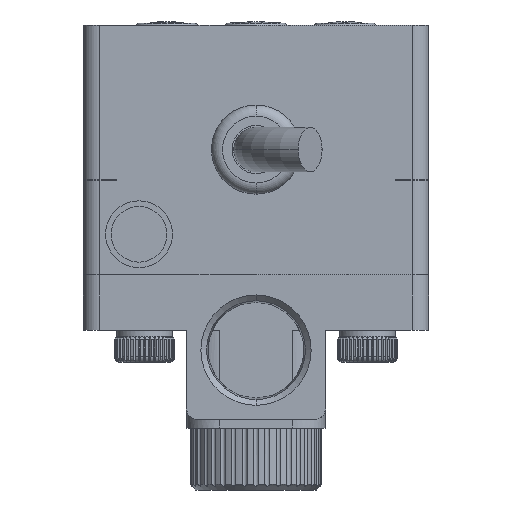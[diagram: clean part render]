
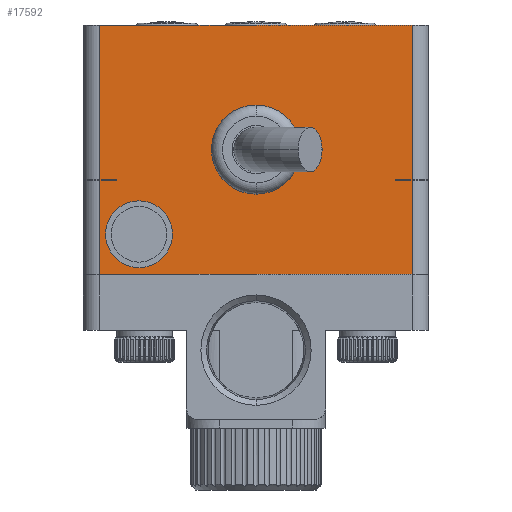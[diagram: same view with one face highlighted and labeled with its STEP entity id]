
A CAD part, front view. The second image highlights one B-rep face of the part: STEP entity #17592.
In plain terms, the highlighted planar face has unit normal (0, -1, 0).
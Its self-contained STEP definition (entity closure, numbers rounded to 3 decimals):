
#1315=DIRECTION('',(1.,0.,0.));
#1316=VECTOR('',#1315,28.);
#1317=CARTESIAN_POINT('',(-14.,0.,13.85));
#1318=LINE('',#1317,#1316);
#1379=DIRECTION('',(0.,0.,1.));
#1380=VECTOR('',#1379,13.85);
#1381=CARTESIAN_POINT('',(-14.,0.,0.));
#1382=LINE('',#1381,#1380);
#1397=DIRECTION('',(0.,0.,1.));
#1398=VECTOR('',#1397,0.05);
#1399=CARTESIAN_POINT('',(-12.5,0.,-0.05));
#1400=LINE('',#1399,#1398);
#1401=DIRECTION('',(0.,0.,1.));
#1402=VECTOR('',#1401,0.05);
#1403=CARTESIAN_POINT('',(12.5,0.,-0.05));
#1404=LINE('',#1403,#1402);
#1405=DIRECTION('',(1.,0.,0.));
#1406=VECTOR('',#1405,1.5);
#1407=CARTESIAN_POINT('',(12.5,0.,-0.05));
#1408=LINE('',#1407,#1406);
#1409=DIRECTION('',(0.,0.,1.));
#1410=VECTOR('',#1409,8.45);
#1411=CARTESIAN_POINT('',(-14.,0.,-8.5));
#1412=LINE('',#1411,#1410);
#1413=DIRECTION('',(1.,0.,0.));
#1414=VECTOR('',#1413,1.5);
#1415=CARTESIAN_POINT('',(-14.,0.,-0.05));
#1416=LINE('',#1415,#1414);
#1417=CARTESIAN_POINT('',(0.,0.,2.7));
#1418=DIRECTION('',(0.,-1.,0.));
#1419=DIRECTION('',(0.,0.,-1.));
#1420=AXIS2_PLACEMENT_3D('',#1417,#1418,#1419);
#1422=CARTESIAN_POINT('',(0.,0.,2.7));
#1423=DIRECTION('',(0.,-1.,0.));
#1424=DIRECTION('',(0.,0.,1.));
#1425=AXIS2_PLACEMENT_3D('',#1422,#1423,#1424);
#1427=CARTESIAN_POINT('',(-10.5,0.,-4.9));
#1428=DIRECTION('',(0.,-1.,0.));
#1429=DIRECTION('',(1.,0.,0.));
#1430=AXIS2_PLACEMENT_3D('',#1427,#1428,#1429);
#1432=CARTESIAN_POINT('',(-10.5,0.,-4.9));
#1433=DIRECTION('',(0.,-1.,0.));
#1434=DIRECTION('',(-1.,0.,0.));
#1435=AXIS2_PLACEMENT_3D('',#1432,#1433,#1434);
#1445=DIRECTION('',(-1.,0.,0.));
#1446=VECTOR('',#1445,1.5);
#1447=CARTESIAN_POINT('',(14.,0.,0.));
#1448=LINE('',#1447,#1446);
#1461=DIRECTION('',(-1.,0.,0.));
#1462=VECTOR('',#1461,1.5);
#1463=CARTESIAN_POINT('',(-12.5,0.,0.));
#1464=LINE('',#1463,#1462);
#1616=DIRECTION('',(1.,0.,0.));
#1617=VECTOR('',#1616,28.);
#1618=CARTESIAN_POINT('',(-14.,0.,-8.5));
#1619=LINE('',#1618,#1617);
#1721=DIRECTION('',(0.,0.,1.));
#1722=VECTOR('',#1721,8.45);
#1723=CARTESIAN_POINT('',(14.,0.,-8.5));
#1724=LINE('',#1723,#1722);
#8831=DIRECTION('',(0.,0.,-1.));
#8832=VECTOR('',#8831,13.85);
#8833=CARTESIAN_POINT('',(14.,0.,13.85));
#8834=LINE('',#8833,#8832);
#13380=CARTESIAN_POINT('',(-14.,0.,-8.5));
#13381=VERTEX_POINT('',#13380);
#13382=CARTESIAN_POINT('',(14.,0.,-8.5));
#13383=VERTEX_POINT('',#13382);
#13394=CARTESIAN_POINT('',(-7.5,0.,-4.9));
#13395=CARTESIAN_POINT('',(-13.5,0.,-4.9));
#13396=VERTEX_POINT('',#13394);
#13397=VERTEX_POINT('',#13395);
#13410=CARTESIAN_POINT('',(0.,0.,-1.3));
#13411=VERTEX_POINT('',#13410);
#13412=CARTESIAN_POINT('',(0.,0.,6.7));
#13413=VERTEX_POINT('',#13412);
#13420=CARTESIAN_POINT('',(-14.,0.,-0.05));
#13421=VERTEX_POINT('',#13420);
#13422=CARTESIAN_POINT('',(-12.5,0.,-0.05));
#13423=VERTEX_POINT('',#13422);
#13424=CARTESIAN_POINT('',(12.5,0.,-0.05));
#13425=CARTESIAN_POINT('',(14.,0.,-0.05));
#13426=VERTEX_POINT('',#13424);
#13427=VERTEX_POINT('',#13425);
#13450=CARTESIAN_POINT('',(-14.,0.,0.));
#13451=CARTESIAN_POINT('',(-14.,0.,13.85));
#13452=VERTEX_POINT('',#13450);
#13453=VERTEX_POINT('',#13451);
#13458=CARTESIAN_POINT('',(14.,0.,13.85));
#13459=CARTESIAN_POINT('',(14.,0.,0.));
#13460=VERTEX_POINT('',#13458);
#13461=VERTEX_POINT('',#13459);
#13503=CARTESIAN_POINT('',(12.5,0.,0.));
#13505=VERTEX_POINT('',#13503);
#13507=CARTESIAN_POINT('',(-12.5,0.,0.));
#13509=VERTEX_POINT('',#13507);
#17551=CARTESIAN_POINT('',(-14.,0.,-8.5));
#17552=DIRECTION('',(0.,-1.,0.));
#17553=DIRECTION('',(1.,0.,0.));
#17554=AXIS2_PLACEMENT_3D('',#17551,#17552,#17553);
#17555=PLANE('',#17554);
#17557=ORIENTED_EDGE('',*,*,#17556,.T.);
#17559=ORIENTED_EDGE('',*,*,#17558,.T.);
#17560=ORIENTED_EDGE('',*,*,#17542,.T.);
#17561=ORIENTED_EDGE('',*,*,#17457,.T.);
#17563=ORIENTED_EDGE('',*,*,#17562,.T.);
#17565=ORIENTED_EDGE('',*,*,#17564,.T.);
#17567=ORIENTED_EDGE('',*,*,#17566,.F.);
#17569=ORIENTED_EDGE('',*,*,#17568,.T.);
#17571=ORIENTED_EDGE('',*,*,#17570,.F.);
#17573=ORIENTED_EDGE('',*,*,#17572,.F.);
#17575=ORIENTED_EDGE('',*,*,#17574,.T.);
#17577=ORIENTED_EDGE('',*,*,#17576,.T.);
#17578=EDGE_LOOP('',(#17557,#17559,#17560,#17561,#17563,#17565,#17567,#17569,
#17571,#17573,#17575,#17577));
#17579=FACE_OUTER_BOUND('',#17578,.F.);
#17581=ORIENTED_EDGE('',*,*,#17580,.T.);
#17583=ORIENTED_EDGE('',*,*,#17582,.T.);
#17584=EDGE_LOOP('',(#17581,#17583));
#17585=FACE_BOUND('',#17584,.F.);
#17587=ORIENTED_EDGE('',*,*,#17586,.T.);
#17589=ORIENTED_EDGE('',*,*,#17588,.T.);
#17590=EDGE_LOOP('',(#17587,#17589));
#17591=FACE_BOUND('',#17590,.F.);
#17592=ADVANCED_FACE('',(#17579,#17585,#17591),#17555,.T.);
#1421=CIRCLE('',#1420,4.);
#1426=CIRCLE('',#1425,4.);
#1431=CIRCLE('',#1430,3.);
#1436=CIRCLE('',#1435,3.);
#17457=EDGE_CURVE('',#13453,#13460,#1318,.T.);
#17542=EDGE_CURVE('',#13452,#13453,#1382,.T.);
#17556=EDGE_CURVE('',#13423,#13509,#1400,.T.);
#17558=EDGE_CURVE('',#13509,#13452,#1464,.T.);
#17562=EDGE_CURVE('',#13460,#13461,#8834,.T.);
#17564=EDGE_CURVE('',#13461,#13505,#1448,.T.);
#17566=EDGE_CURVE('',#13426,#13505,#1404,.T.);
#17568=EDGE_CURVE('',#13426,#13427,#1408,.T.);
#17570=EDGE_CURVE('',#13383,#13427,#1724,.T.);
#17572=EDGE_CURVE('',#13381,#13383,#1619,.T.);
#17574=EDGE_CURVE('',#13381,#13421,#1412,.T.);
#17576=EDGE_CURVE('',#13421,#13423,#1416,.T.);
#17580=EDGE_CURVE('',#13411,#13413,#1421,.T.);
#17582=EDGE_CURVE('',#13413,#13411,#1426,.T.);
#17586=EDGE_CURVE('',#13396,#13397,#1431,.T.);
#17588=EDGE_CURVE('',#13397,#13396,#1436,.T.);
